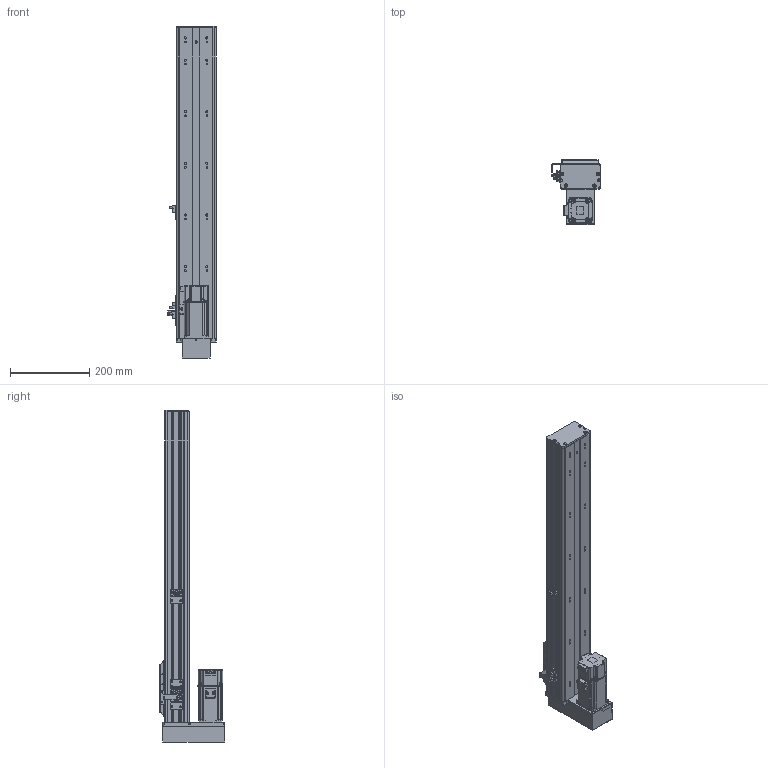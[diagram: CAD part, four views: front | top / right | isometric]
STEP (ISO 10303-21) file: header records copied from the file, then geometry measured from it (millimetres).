
FILE_DESCRIPTION (( 'STEP AP203' ), '1' );
FILE_NAME ('BOSW100-600-1610-1P-DM-M400W-O-S3（方程式2016）.step', '2020-10-10T06:44:55', ( '' ), ( '' ), 'SwSTEP 2.0', 'SolidWorks 2016', '' );
FILE_SCHEMA (( 'CONFIG_CONTROL_DESIGN' ));
Length unit declared in the file: millimetre
Products named in the file (14): BOSW&TW-100-詩湍揤沭(陔賦凳); BOSW-100-1P-DM-宽轨-侧板-600客户图纸; BOSW100-600-1610-1P-DM-M400W-O-S3（方程式2016）; BOSW-100-1P-DM-宽轨-钢带-600客户图纸; BOS-100-DM鎮湛假蚾啣; 俋境嫖覜嘐隅啣; S400W(SMA-L040); BOS100-DM鎮湛欶; 放大器内置U型微型光电传感器PM-L65; BOSW-100-1P-DM-600諦誧芞; BOSW&TW-100-俋离覜茼え; 新结构AIMSW-100-1P-宽&高轨共用-滑动座上组件; BOSW-100-綴裔啣; BOSW&TW-100-1P-賑雄釱欶
Assembly tree (19 placements, depth 2):
  BOSW100-600-1610-1P-DM-M400W-O-S3（方程式2016）
    BOSW-100-1P-DM-600諦誧芞
    BOSW-100-綴裔啣
    新结构AIMSW-100-1P-宽&高轨共用-滑动座上组件
    S400W(SMA-L040)
    BOSW&TW-100-詩湍揤沭(陔賦凳)  x2
    BOSW&TW-100-1P-賑雄釱欶
    BOSW&TW-100-俋离覜茼え
    俋境嫖覜嘐隅啣  x3
    放大器内置U型微型光电传感器PM-L65  x3
    BOSW-100-1P-DM-宽轨-侧板-600客户图纸  x2
    BOSW-100-1P-DM-宽轨-钢带-600客户图纸
    BOS100-DM鎮湛欶
    BOS-100-DM鎮湛假蚾啣
Bounding box: 120.9 x 164 x 836 mm (x, y, z)
Volume: 1903327.2 mm3; surface area: 897028.9 mm2
Topology: 19 solids, 19 shells, 2554 faces, 6740 edges, 4309 vertices
Faces by surface type: plane 1267, cylinder 811, bspline 271, cone 157, torus 36, sphere 12
Entity records: 70263 total; most frequent: CARTESIAN_POINT 20986, ORIENTED_EDGE 10036, DIRECTION 9718, EDGE_CURVE 5018, AXIS2_PLACEMENT_3D 3438, VERTEX_POINT 3211, LINE 2842, VECTOR 2842
